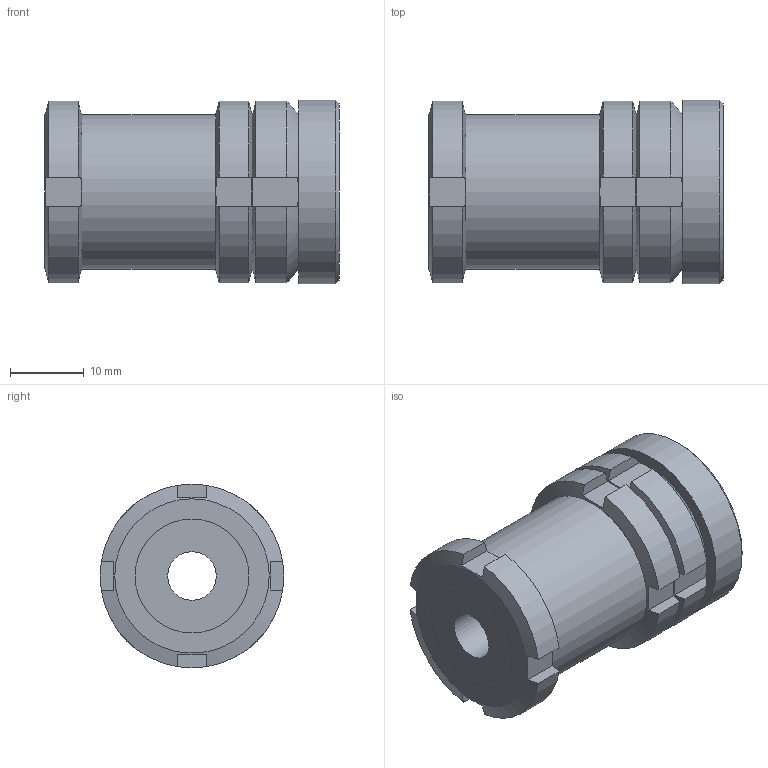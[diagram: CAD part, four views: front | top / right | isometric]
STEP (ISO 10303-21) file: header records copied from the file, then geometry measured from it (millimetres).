
FILE_DESCRIPTION( ( 'STEP AP203' ), '1' );
FILE_NAME( 'C:/Temp/Ganter_Step_05_03_2020/data/3_2/gn350_5/gn350_5_st/Levelling set GN 350.5-25-6,6-40-ST (0-0).stp', '2020-03-13T05:28:24', ( 'License CC BY-ND 4.0' ), ( 'CADENAS' ), ' ', 'PARTsolutions', ' ' );
FILE_SCHEMA( ( 'CONFIG_CONTROL_DESIGN' ) );
Length unit declared in the file: millimetre
Products named in the file (5): Levelling set GN 350.5-25-6,6-40-ST (0-0); _Levelling set GN 350.5-25-6,6-40-ST-G; _Levelling set GN 350.5-25-6,6-40-ST-K; _Levelling set GN 350.5-25-6,6-40-ST-P(0); _Levelling set GN 350.5-25-6,6-27-ST-KM
Assembly tree (4 placements, depth 2):
  Levelling set GN 350.5-25-6,6-40-ST (0-0)
    _Levelling set GN 350.5-25-6,6-40-ST-G
    _Levelling set GN 350.5-25-6,6-40-ST-K
    _Levelling set GN 350.5-25-6,6-40-ST-P(0)
    _Levelling set GN 350.5-25-6,6-27-ST-KM
Bounding box: 40 x 25 x 25 mm (x, y, z)
Volume: 15021.5 mm3; surface area: 9541.6 mm2
Topology: 4 solids, 4 shells, 84 faces, 209 edges, 139 vertices
Faces by surface type: plane 50, cylinder 24, cone 8, sphere 2
Full cylindrical faces by diameter (mm): 6.6 x1, 10 x1, 11.605 x1, 12.5 x1, 13.917 x2, 15 x2, 15.5 x2, 21 x1, 25 x1
Entity records: 2676 total; most frequent: CARTESIAN_POINT 695, DIRECTION 364, ORIENTED_EDGE 354, EDGE_CURVE 177, AXIS2_PLACEMENT_3D 158, VERTEX_POINT 129, EDGE_LOOP 120, FACE_OUTER_BOUND 98
